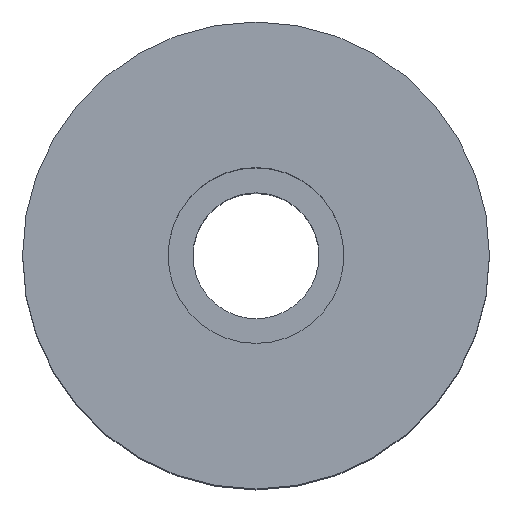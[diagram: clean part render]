
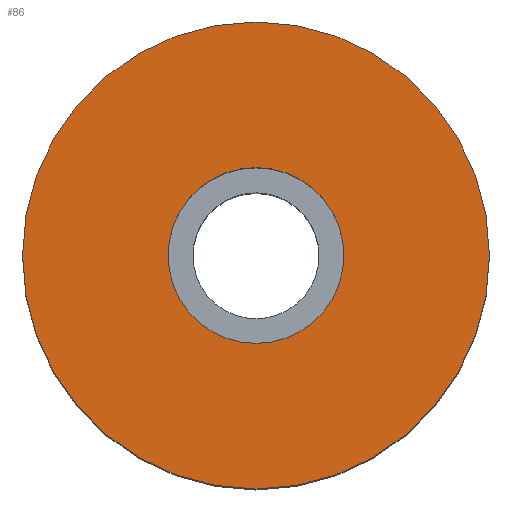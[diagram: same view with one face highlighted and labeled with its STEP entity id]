
A CAD part, top view. The second image highlights one B-rep face of the part: STEP entity #86.
In plain terms, the highlighted planar face has unit normal (0, 0, 1).
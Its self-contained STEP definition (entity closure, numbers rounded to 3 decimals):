
#86=ADVANCED_FACE('',(#135,#136),#137,.T.);
#135=FACE_BOUND('',#186,.T.);
#136=FACE_OUTER_BOUND('',#187,.T.);
#137=PLANE('',#188);
#186=EDGE_LOOP('',(#352,#353));
#187=EDGE_LOOP('',(#354,#355));
#188=AXIS2_PLACEMENT_3D('',#356,#357,#358);
#352=ORIENTED_EDGE('',*,*,#418,.F.);
#353=ORIENTED_EDGE('',*,*,#410,.F.);
#354=ORIENTED_EDGE('',*,*,#414,.T.);
#355=ORIENTED_EDGE('',*,*,#417,.T.);
#356=CARTESIAN_POINT('',(30.625,0.,107.675));
#357=DIRECTION('',(-0.0,0.,1.0));
#358=DIRECTION('',(1.0,0.0,0.0));
#410=EDGE_CURVE('',#492,#488,#494,.T.);
#414=EDGE_CURVE('',#496,#500,#502,.T.);
#417=EDGE_CURVE('',#500,#496,#505,.T.);
#418=EDGE_CURVE('',#488,#492,#506,.T.);
#488=VERTEX_POINT('',#586);
#492=VERTEX_POINT('',#591);
#494=CIRCLE('',#594,16.75);
#496=VERTEX_POINT('',#596);
#500=VERTEX_POINT('',#601);
#502=CIRCLE('',#604,44.5);
#505=CIRCLE('',#607,44.5);
#506=CIRCLE('',#608,16.75);
#586=CARTESIAN_POINT('',(16.75,0.,107.675));
#591=CARTESIAN_POINT('',(-16.75,0.,107.675));
#594=AXIS2_PLACEMENT_3D('',#717,#718,#719);
#596=CARTESIAN_POINT('',(44.5,0.,107.675));
#601=CARTESIAN_POINT('',(-44.5,0.,107.675));
#604=AXIS2_PLACEMENT_3D('',#725,#726,#727);
#607=AXIS2_PLACEMENT_3D('',#734,#735,#736);
#608=AXIS2_PLACEMENT_3D('',#737,#738,#739);
#717=CARTESIAN_POINT('',(0.0,0.,107.675));
#718=DIRECTION('',(-0.0,0.,1.0));
#719=DIRECTION('',(1.0,0.0,0.0));
#725=CARTESIAN_POINT('',(0.0,0.,107.675));
#726=DIRECTION('',(-0.0,0.,1.0));
#727=DIRECTION('',(1.0,0.0,0.0));
#734=CARTESIAN_POINT('',(0.0,0.,107.675));
#735=DIRECTION('',(-0.0,0.,1.0));
#736=DIRECTION('',(1.0,0.0,0.0));
#737=CARTESIAN_POINT('',(0.0,0.,107.675));
#738=DIRECTION('',(-0.0,0.,1.0));
#739=DIRECTION('',(1.0,0.0,0.0));
